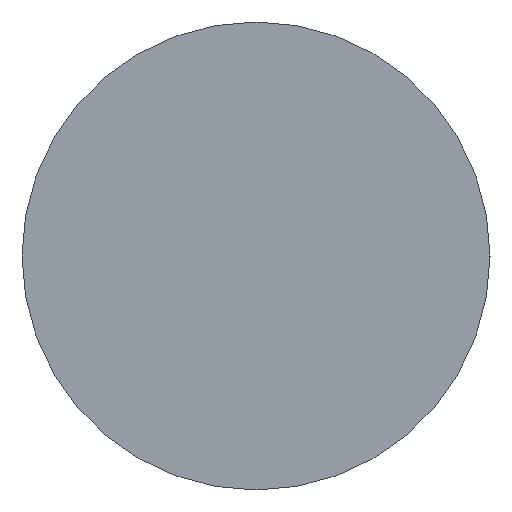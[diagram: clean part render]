
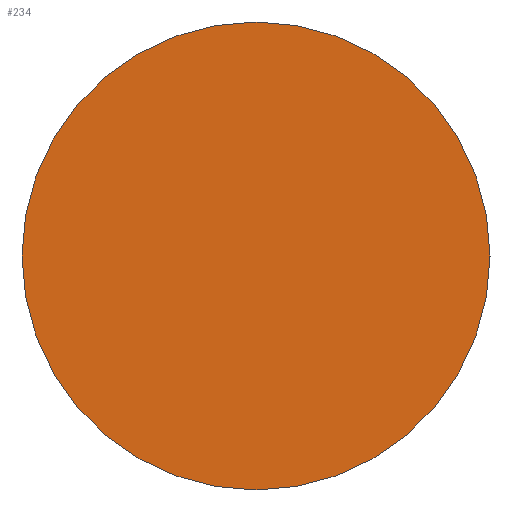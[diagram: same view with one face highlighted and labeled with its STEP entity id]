
A CAD part, left-side view. The second image highlights one B-rep face of the part: STEP entity #234.
In plain terms, the highlighted planar face has unit normal (-1, 0, 0).
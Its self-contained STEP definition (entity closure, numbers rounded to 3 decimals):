
#66=CARTESIAN_POINT('',(-7.,0.,0.));
#67=DIRECTION('',(-1.,0.,0.));
#68=DIRECTION('',(0.,1.,0.));
#69=AXIS2_PLACEMENT_3D('',#66,#67,#68);
#71=CARTESIAN_POINT('',(-7.,0.,0.));
#72=DIRECTION('',(-1.,0.,0.));
#73=DIRECTION('',(0.,-1.,0.));
#74=AXIS2_PLACEMENT_3D('',#71,#72,#73);
#101=CARTESIAN_POINT('',(-7.,3.,0.));
#102=CARTESIAN_POINT('',(-7.,-3.,0.));
#103=VERTEX_POINT('',#101);
#104=VERTEX_POINT('',#102);
#225=CARTESIAN_POINT('',(-7.,0.,0.));
#226=DIRECTION('',(-1.,0.,0.));
#227=DIRECTION('',(0.,1.,0.));
#228=AXIS2_PLACEMENT_3D('',#225,#226,#227);
#229=PLANE('',#228);
#230=ORIENTED_EDGE('',*,*,#205,.F.);
#231=ORIENTED_EDGE('',*,*,#219,.F.);
#232=EDGE_LOOP('',(#230,#231));
#233=FACE_OUTER_BOUND('',#232,.F.);
#234=ADVANCED_FACE('',(#233),#229,.T.);
#70=CIRCLE('',#69,3.);
#75=CIRCLE('',#74,3.);
#205=EDGE_CURVE('',#103,#104,#70,.T.);
#219=EDGE_CURVE('',#104,#103,#75,.T.);
